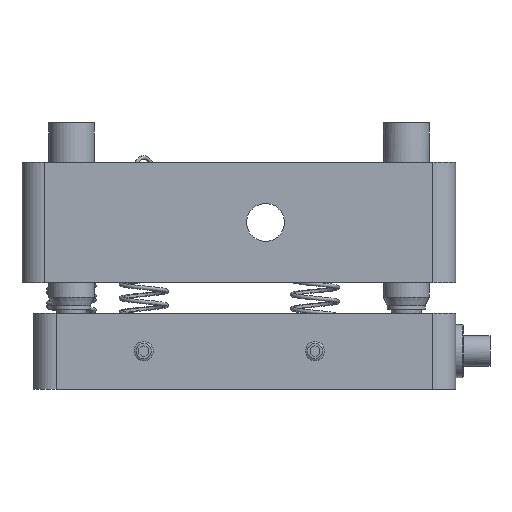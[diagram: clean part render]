
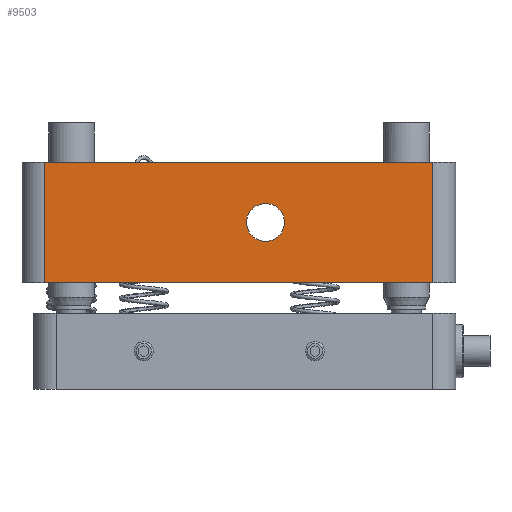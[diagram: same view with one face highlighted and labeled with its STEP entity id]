
A CAD part, front view. The second image highlights one B-rep face of the part: STEP entity #9503.
In plain terms, the highlighted planar face has unit normal (0, -1, 0).
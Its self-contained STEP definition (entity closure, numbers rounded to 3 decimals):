
#49 = VECTOR ( 'NONE', #17919, 1000. ) ;
#249 = VERTEX_POINT ( 'NONE', #14030 ) ;
#690 = EDGE_CURVE ( 'NONE', #8963, #249, #12147, .T. ) ;
#1006 = VECTOR ( 'NONE', #7546, 1000. ) ;
#1116 = CARTESIAN_POINT ( 'NONE',  ( 0.734, -29.403, 2.5 ) ) ;
#1342 = EDGE_CURVE ( 'NONE', #18867, #18867, #5375, .T. ) ;
#1343 = CARTESIAN_POINT ( 'NONE',  ( 22.734, -29.403, -7.9 ) ) ;
#2919 = ORIENTED_EDGE ( 'NONE', *, *, #690, .T. ) ;
#3049 = EDGE_CURVE ( 'NONE', #17365, #249, #13546, .T. ) ;
#3307 = ORIENTED_EDGE ( 'NONE', *, *, #1342, .T. ) ;
#3912 = ORIENTED_EDGE ( 'NONE', *, *, #10096, .T. ) ;
#4774 = CARTESIAN_POINT ( 'NONE',  ( -28.266, -29.403, -7.9 ) ) ;
#5375 = CIRCLE ( 'NONE', #6937, 2.5 ) ;
#5623 = VERTEX_POINT ( 'NONE', #4774 ) ;
#5779 = DIRECTION ( 'NONE',  ( 0., 1., 0. ) ) ;
#6209 = CARTESIAN_POINT ( 'NONE',  ( -31.266, -29.403, -7.9 ) ) ;
#6937 = AXIS2_PLACEMENT_3D ( 'NONE', #7594, #13489, #14944 ) ;
#7163 = FACE_OUTER_BOUND ( 'NONE', #16367, .T. ) ;
#7344 = DIRECTION ( 'NONE',  ( 0., 0., 1. ) ) ;
#7546 = DIRECTION ( 'NONE',  ( 0., 0., 1. ) ) ;
#7594 = CARTESIAN_POINT ( 'NONE',  ( 0.734, -29.403, 0. ) ) ;
#7966 = ORIENTED_EDGE ( 'NONE', *, *, #3049, .F. ) ;
#8332 = VECTOR ( 'NONE', #11715, 1000. ) ;
#8648 = EDGE_CURVE ( 'NONE', #5623, #8963, #10815, .T. ) ;
#8963 = VERTEX_POINT ( 'NONE', #1343 ) ;
#9060 = DIRECTION ( 'NONE',  ( 1., 0., 0. ) ) ;
#9503 = ADVANCED_FACE ( 'NONE', ( #15958, #7163 ), #13025, .F. ) ;
#10096 = EDGE_CURVE ( 'NONE', #17365, #5623, #16392, .T. ) ;
#10506 = CARTESIAN_POINT ( 'NONE',  ( -31.266, -29.403, 7.9 ) ) ;
#10815 = LINE ( 'NONE', #6209, #15178 ) ;
#11442 = AXIS2_PLACEMENT_3D ( 'NONE', #14591, #5779, #7344 ) ;
#11715 = DIRECTION ( 'NONE',  ( 0., 0., -1. ) ) ;
#12134 = CARTESIAN_POINT ( 'NONE',  ( -28.266, -29.403, 7.9 ) ) ;
#12147 = LINE ( 'NONE', #17815, #1006 ) ;
#12953 = EDGE_LOOP ( 'NONE', ( #3307 ) ) ;
#13025 = PLANE ( 'NONE',  #11442 ) ;
#13489 = DIRECTION ( 'NONE',  ( 0., 1., 0. ) ) ;
#13546 = LINE ( 'NONE', #10506, #49 ) ;
#14030 = CARTESIAN_POINT ( 'NONE',  ( 22.734, -29.403, 7.9 ) ) ;
#14591 = CARTESIAN_POINT ( 'NONE',  ( -31.266, -29.403, 7.9 ) ) ;
#14944 = DIRECTION ( 'NONE',  ( 0., 0., 1. ) ) ;
#15178 = VECTOR ( 'NONE', #9060, 1000. ) ;
#15958 = FACE_BOUND ( 'NONE', #12953, .T. ) ;
#16105 = CARTESIAN_POINT ( 'NONE',  ( -28.266, -29.403, 7.9 ) ) ;
#16367 = EDGE_LOOP ( 'NONE', ( #18895, #2919, #7966, #3912 ) ) ;
#16392 = LINE ( 'NONE', #16105, #8332 ) ;
#17365 = VERTEX_POINT ( 'NONE', #12134 ) ;
#17815 = CARTESIAN_POINT ( 'NONE',  ( 22.734, -29.403, 7.9 ) ) ;
#17919 = DIRECTION ( 'NONE',  ( 1., 0., 0. ) ) ;
#18867 = VERTEX_POINT ( 'NONE', #1116 ) ;
#18895 = ORIENTED_EDGE ( 'NONE', *, *, #8648, .T. ) ;
